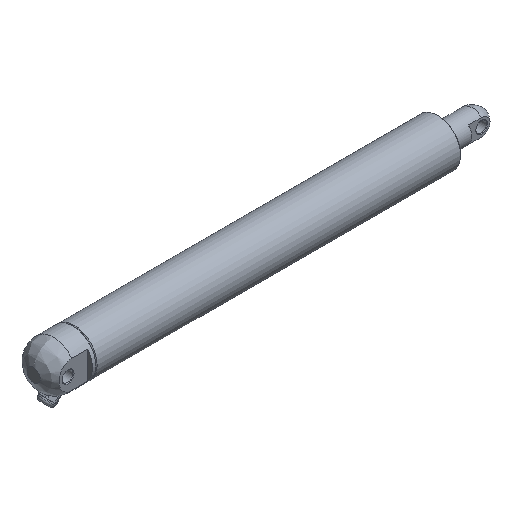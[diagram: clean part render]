
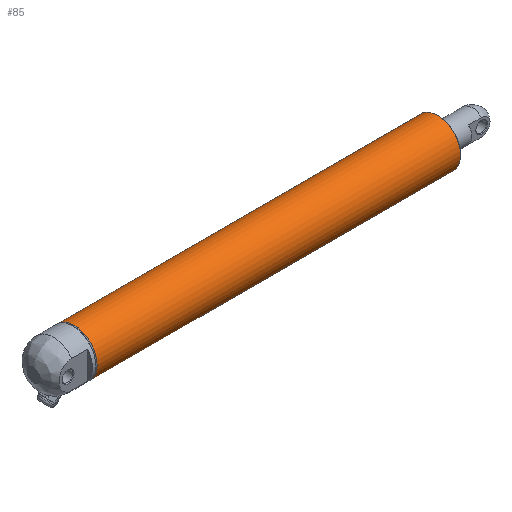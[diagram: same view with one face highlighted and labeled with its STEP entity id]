
A CAD part, isometric view. The second image highlights one B-rep face of the part: STEP entity #85.
In plain terms, the highlighted cylindrical face has radius 17.5 mm (diameter 35 mm), a full revolution.
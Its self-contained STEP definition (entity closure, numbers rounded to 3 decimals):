
#85 = ADVANCED_FACE( '', ( #224, #225 ), #226, .T. );
#224 = FACE_OUTER_BOUND( '', #442, .T. );
#225 = FACE_OUTER_BOUND( '', #443, .T. );
#226 = CYLINDRICAL_SURFACE( '', #444, 17.5 );
#442 = EDGE_LOOP( '', ( #722 ) );
#443 = EDGE_LOOP( '', ( #723 ) );
#444 = AXIS2_PLACEMENT_3D( '', #724, #725, #726 );
#722 = ORIENTED_EDGE( '', *, *, #1210, .T. );
#723 = ORIENTED_EDGE( '', *, *, #1211, .T. );
#724 = CARTESIAN_POINT( '', ( 276., 0., 0. ) );
#725 = DIRECTION( '', ( 1., 0., 0. ) );
#726 = DIRECTION( '', ( 0., 0., 1. ) );
#1210 = EDGE_CURVE( '', #1396, #1396, #1397, .F. );
#1211 = EDGE_CURVE( '', #1398, #1398, #1399, .T. );
#1396 = VERTEX_POINT( '', #1673 );
#1397 = CIRCLE( '', #1674, 17.5 );
#1398 = VERTEX_POINT( '', #1675 );
#1399 = CIRCLE( '', #1676, 17.5 );
#1673 = CARTESIAN_POINT( '', ( 0.5, 0., 17.5 ) );
#1674 = AXIS2_PLACEMENT_3D( '', #2234, #2235, #2236 );
#1675 = CARTESIAN_POINT( '', ( 275.5, 0., 17.5 ) );
#1676 = AXIS2_PLACEMENT_3D( '', #2237, #2238, #2239 );
#2234 = CARTESIAN_POINT( '', ( 0.5, 0., 0. ) );
#2235 = DIRECTION( '', ( -1., 0., 0. ) );
#2236 = DIRECTION( '', ( 0., 0., 1. ) );
#2237 = CARTESIAN_POINT( '', ( 275.5, 0., 0. ) );
#2238 = DIRECTION( '', ( -1., 0., 0. ) );
#2239 = DIRECTION( '', ( 0., 0., 1. ) );
